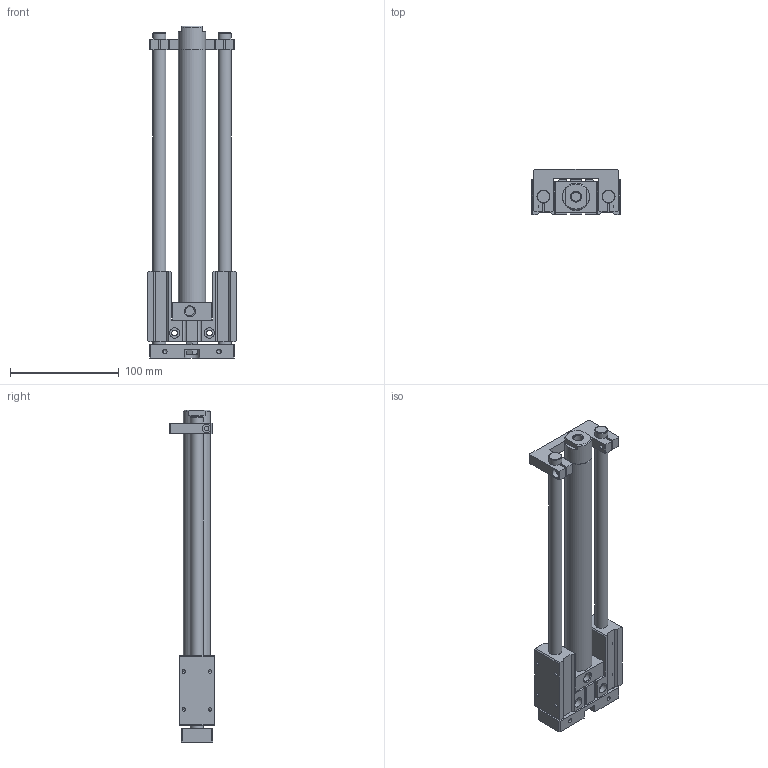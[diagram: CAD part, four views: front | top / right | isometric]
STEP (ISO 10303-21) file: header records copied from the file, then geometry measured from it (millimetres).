
FILE_DESCRIPTION((''),'2;1');
FILE_NAME('I:\3D電子目錄\氣缸\TMB(U)\TMB(U)\TMB(U)20\TMB(U)20x200.stp','2007-10-04T15:03:19',('Administrator'),(''),'Autodesk Inventor 11','Autodesk Inventor 11','');
FILE_SCHEMA(('AUTOMOTIVE_DESIGN { 1 0 10303 214 1 1 1 1 }'));
Length unit declared in the file: millimetre
Products named in the file (1): TMB(U)20
Bounding box: 82 x 41 x 306 mm (x, y, z)
Volume: 331326.4 mm3; surface area: 78155.6 mm2
Topology: 1 solids, 1 shells, 244 faces, 668 edges, 432 vertices
Faces by surface type: plane 139, bspline 50, cone 28, cylinder 25, torus 2
Full cylindrical faces by diameter (mm): 3.242 x4, 4.134 x4, 8 x1, 10 x2, 11 x2, 12 x3, 25 x2
Entity records: 7581 total; most frequent: CARTESIAN_POINT 2093, ORIENTED_EDGE 1088, DIRECTION 1054, EDGE_CURVE 544, VERTEX_POINT 384, EDGE_LOOP 368, AXIS2_PLACEMENT_3D 355, VECTOR 344
